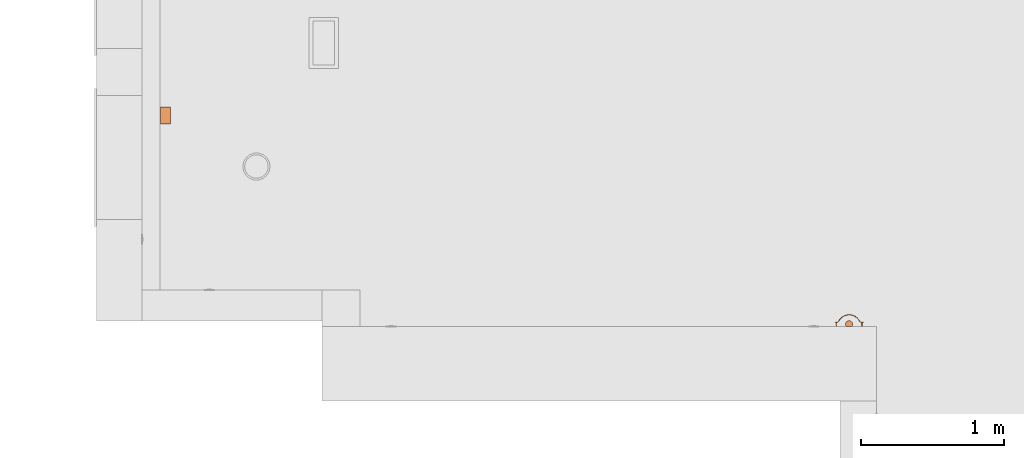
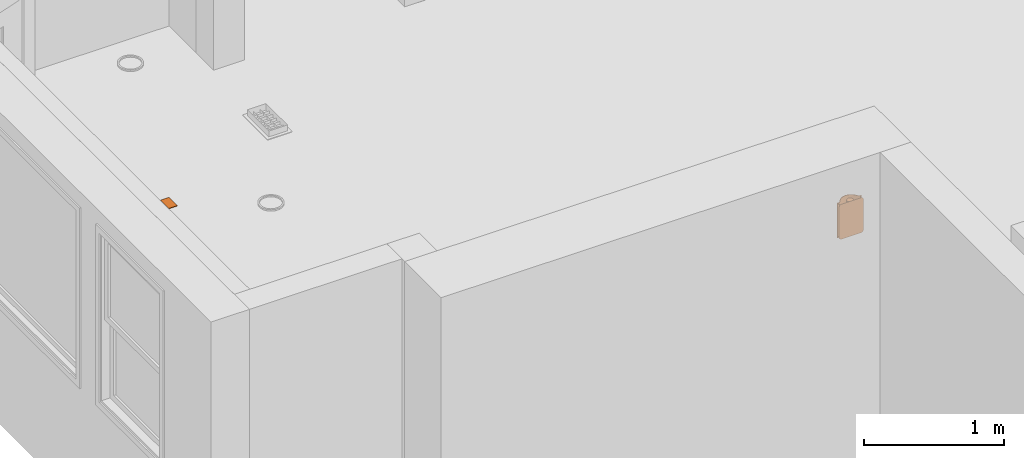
# One storey, part 25 of 48: 2 proxies.
"""IFC2X3 building model written with IfcOpenShell, lengths in inches."""

from ifc_helpers import new_model, entity, si_unit, converted_unit, derived_unit, money_unit, direction, frame, origin_with_axes, place, context, subcontext, project, spatial, faceted_brep, source, transform, mapped, material, type_object, element, save


model = new_model("IFC2X3")

# Units and contexts
model_context = context("Model", 3, precision=0.00039370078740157, world=origin_with_axes(), true_north=direction((0.0, 1.0)))
plan_context = context("Plan", 3, precision=0.00039370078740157, world=origin_with_axes(), true_north=direction((0.0, 1.0)))
body_context = subcontext(model_context, "Body", "Model", "MODEL_VIEW")
ifc_project = project(units=[converted_unit("LENGTHUNIT", "INCH", entity("IfcPositiveLengthMeasure", 0.0254), si_unit("LENGTHUNIT", "METRE"), dimensions=[1, 0, 0, 0, 0, 0, 0]), converted_unit("AREAUNIT", "SQUARE_FOOT", entity("IfcPositiveLengthMeasure", 0.09290304), si_unit("AREAUNIT", "SQUARE_METRE"), dimensions=[2, 0, 0, 0, 0, 0, 0]), si_unit("PLANEANGLEUNIT", "RADIAN"), si_unit("SOLIDANGLEUNIT", "STERADIAN"), money_unit("USD"), converted_unit("TIMEUNIT", "Year", entity("IfcTimeMeasure", 31557600.0), si_unit("TIMEUNIT", "SECOND"), dimensions=[0, 0, 1, 0, 0, 0, 0]), si_unit("MASSUNIT", "GRAM", prefix="KILO"), si_unit("THERMODYNAMICTEMPERATUREUNIT", "DEGREE_CELSIUS"), si_unit("LUMINOUSINTENSITYUNIT", "LUMEN"), si_unit("ENERGYUNIT", "JOULE", prefix="MEGA"), derived_unit("SPECIFICHEATCAPACITYUNIT", [(si_unit("ENERGYUNIT", "JOULE"), 1), (si_unit("MASSUNIT", "GRAM", prefix="KILO"), -1), (si_unit("THERMODYNAMICTEMPERATUREUNIT", "KELVIN"), -1)])], contexts=[model_context, plan_context])

# Site, building, storey
site_placement = place(None, origin_with_axes())
site = spatial("IfcSite", under=ifc_project, at=site_placement, Name="Site", CompositionType="ELEMENT")
building_placement = place(site_placement, origin_with_axes())
building = spatial("IfcBuilding", under=site, at=building_placement, Name="Building", CompositionType="ELEMENT")
storey_placement = place(building_placement, origin_with_axes())
storey = spatial("IfcBuildingStorey", under=building, at=storey_placement, Name="First Floor", CompositionType="ELEMENT", Elevation=0.0)

# Proxies
ifc_material = material(Name="Color - White")
building_element_proxy_type_1 = type_object("IfcBuildingElementProxyType", Name="Color - White", PredefinedType="NOTDEFINED")
shared_shape_1 = source(origin_with_axes(), body_context, "Body", "Brep", [
    faceted_brep([(39.622047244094, -412.3783872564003, 95.86220472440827), (39.622047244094, -412.3783872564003, 95.9999999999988), (39.622047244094, -407.6539778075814, 95.9999999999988), (39.622047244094, -407.6539778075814, 95.86220472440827), (42.37795275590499, -412.3783872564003, 95.86220472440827), (42.37795275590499, -412.3783872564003, 95.9999999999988), (40.72440944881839, -410.4886234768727, 95.9999999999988), (40.60629921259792, -410.4886234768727, 95.9999999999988), (40.60629921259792, -409.5437415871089, 95.9999999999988), (40.72440944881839, -409.5437415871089, 95.9999999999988), (42.37795275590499, -407.6539778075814, 95.9999999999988), (42.37795275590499, -407.6539778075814, 95.86220472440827), (40.60629921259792, -409.5437415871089, 95.86220472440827), (40.60629921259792, -410.4886234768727, 95.86220472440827), (41.39370078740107, -410.4886234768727, 95.86220472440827), (41.39370078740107, -409.5437415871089, 95.86220472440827), (41.2755905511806, -410.4886234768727, 95.9999999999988), (40.9999999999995, -410.0161825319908, 95.9999999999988), (41.39370078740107, -410.4886234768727, 95.9999999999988), (41.39370078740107, -409.5437415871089, 95.9999999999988), (41.2755905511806, -409.5437415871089, 95.9999999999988), (40.60629921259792, -409.5437415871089, 95.81791338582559), (40.60629921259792, -410.4886234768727, 95.81791338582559), (41.39370078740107, -410.4886234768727, 95.81791338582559), (41.39370078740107, -409.5437415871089, 95.81791338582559)], [[[0, 1, 2, 3]], [[1, 0, 4, 5]], [[1, 6, 7, 8, 9, 2]], [[3, 2, 10, 11]], [[0, 3, 11, 4], [12, 13, 14, 15]], [[5, 4, 11, 10]], [[6, 1, 5, 16]], [[17, 7, 6, 16, 18]], [[8, 7, 17]], [[8, 17, 19, 20, 9]], [[2, 9, 20, 10]], [[21, 22, 13, 12]], [[13, 22, 23, 14]], [[14, 23, 24, 15]], [[21, 12, 15, 24]], [[19, 18, 16, 5, 10, 20]], [[17, 18, 19]], [[22, 21, 24, 23]]]),
])
proxy_1_placement = place(storey_placement, frame((-226.4970472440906, 592.5190122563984, 4.999999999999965), z_axis=(0.0, 0.0, 1.0), x_axis=(1.0, 0.0, 0.0)))
element("IfcBuildingElementProxy", 1, at=proxy_1_placement, inside=storey, type_object=building_element_proxy_type_1, material=ifc_material, Name="OBJ-03", context=body_context, shape_type="MappedRepresentation", body=[
    mapped(shared_shape_1, transform((0.0, 0.0, 0.0))),
])
building_element_proxy_type_2 = type_object("IfcBuildingElementProxyType", Name="Wall Lamp", PredefinedType="NOTDEFINED")
shared_shape_2 = source(origin_with_axes(), body_context, "Body", "Brep", [
    faceted_brep([(3.9370078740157, -1.062992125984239, 0.0), (3.591991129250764, -1.063143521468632, 0.0), (3.591991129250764, -1.063143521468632, 11.99999999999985), (3.9370078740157, -1.062992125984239, 11.99999999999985), (3.9370078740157, -1.18110236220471, 0.0), (3.54330708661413, -1.18110236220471, 0.0), (3.389692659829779, -1.196232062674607, 0.0), (3.241981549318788, -1.241039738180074, 0.0), (3.105850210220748, -1.31380345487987, 0.0), (2.986530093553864, -1.411726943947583, 0.0), (2.669665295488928, -1.945564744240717, 0.0), (2.258517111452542, -2.410691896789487, 0.0), (1.767605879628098, -2.790681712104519, 0.0), (1.214268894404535, -3.072114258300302, 0.0), (0.6180481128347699, -3.245050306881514, 0.0), (0.0, -3.30338235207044, 0.0), (0.0, -3.14960629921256, 0.0), (0.5658852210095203, -3.098353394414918, 0.0), (1.113353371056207, -2.946262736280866, 0.0), (1.624586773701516, -2.698284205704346, 0.0), (2.082947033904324, -2.362488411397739, 0.0), (2.47351654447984, -1.949804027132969, 0.0), (2.783583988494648, -1.473662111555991, 0.0), (2.903069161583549, -1.326520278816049, 0.0), (3.050535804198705, -1.207436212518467, 0.0), (3.219538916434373, -1.121614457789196, 0.0), (3.402692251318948, -1.072805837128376, 0.0), (3.402692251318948, -1.072805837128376, 11.99999999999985), (3.219538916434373, -1.121614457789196, 11.99999999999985), (3.050535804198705, -1.207436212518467, 11.99999999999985), (2.903069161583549, -1.326520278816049, 11.99999999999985), (2.783583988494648, -1.473662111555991, 11.99999999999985), (2.47351654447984, -1.949804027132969, 11.99999999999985), (2.082947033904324, -2.362488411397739, 11.99999999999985), (1.624586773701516, -2.698284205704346, 11.99999999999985), (1.113353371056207, -2.946262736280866, 11.99999999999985), (0.5658852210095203, -3.098353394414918, 11.99999999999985), (0.0, -3.14960629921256, 11.99999999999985), (0.0, -3.30338235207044, 11.99999999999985), (0.6180481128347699, -3.245050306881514, 11.99999999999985), (1.214268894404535, -3.072114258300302, 11.99999999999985), (1.767605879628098, -2.790681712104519, 11.99999999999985), (2.258517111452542, -2.410691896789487, 11.99999999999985), (2.669665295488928, -1.945564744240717, 11.99999999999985), (2.986530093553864, -1.411726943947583, 11.99999999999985), (3.105850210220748, -1.31380345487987, 11.99999999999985), (3.241981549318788, -1.241039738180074, 11.99999999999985), (3.389692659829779, -1.196232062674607, 11.99999999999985), (3.54330708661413, -1.18110236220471, 11.99999999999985), (3.9370078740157, -1.18110236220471, 11.99999999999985)], [[[0, 1, 2, 3]], [[0, 4, 5, 6, 7, 8, 9, 10, 11, 12, 13, 14, 15, 16, 17, 18, 19, 20, 21, 22, 23, 24, 25, 26, 1]], [[1, 26, 27, 2]], [[3, 2, 27, 28, 29, 30, 31, 32, 33, 34, 35, 36, 37, 38, 39, 40, 41, 42, 43, 44, 45, 46, 47, 48, 49]], [[4, 0, 3, 49]], [[5, 4, 49, 48]], [[6, 5, 48, 47]], [[7, 6, 47, 46]], [[8, 7, 46, 45]], [[9, 8, 45, 44]], [[10, 9, 44, 43]], [[11, 10, 43, 42]], [[12, 11, 42, 41]], [[13, 12, 41, 40]], [[14, 13, 40, 39]], [[15, 14, 39, 38]], [[16, 15, 38, 37]], [[17, 16, 37, 36]], [[18, 17, 36, 35]], [[19, 18, 35, 34]], [[20, 19, 34, 33]], [[21, 20, 33, 32]], [[22, 21, 32, 31]], [[23, 22, 31, 30]], [[24, 23, 30, 29]], [[25, 24, 29, 28]], [[26, 25, 28, 27]]]),
    faceted_brep([(-3.9370078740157, -1.062992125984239, 0.0), (-3.9370078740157, -1.062992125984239, 11.99999999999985), (-3.591991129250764, -1.063143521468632, 11.99999999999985), (-3.591991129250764, -1.063143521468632, 0.0), (-3.9370078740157, -1.18110236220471, 0.0), (-3.9370078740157, -1.18110236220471, 11.99999999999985), (-3.54330708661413, -1.18110236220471, 11.99999999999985), (-3.389692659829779, -1.196232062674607, 11.99999999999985), (-3.241981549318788, -1.241039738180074, 11.99999999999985), (-3.105850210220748, -1.31380345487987, 11.99999999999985), (-2.986530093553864, -1.411726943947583, 11.99999999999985), (-2.669665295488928, -1.945564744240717, 11.99999999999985), (-2.258517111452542, -2.410691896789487, 11.99999999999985), (-1.767605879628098, -2.790681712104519, 11.99999999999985), (-1.214268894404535, -3.072114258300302, 11.99999999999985), (-0.6180481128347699, -3.245050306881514, 11.99999999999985), (0.0, -3.30338235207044, 11.99999999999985), (0.0, -3.14960629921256, 11.99999999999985), (-0.5658852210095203, -3.098353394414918, 11.99999999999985), (-1.113353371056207, -2.946262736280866, 11.99999999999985), (-1.624586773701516, -2.698284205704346, 11.99999999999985), (-2.082947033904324, -2.362488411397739, 11.99999999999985), (-2.47351654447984, -1.949804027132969, 11.99999999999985), (-2.783583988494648, -1.473662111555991, 11.99999999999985), (-2.903069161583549, -1.326520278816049, 11.99999999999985), (-3.050535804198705, -1.207436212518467, 11.99999999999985), (-3.219538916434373, -1.121614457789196, 11.99999999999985), (-3.402692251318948, -1.072805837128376, 11.99999999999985), (-3.402692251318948, -1.072805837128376, 0.0), (-3.219538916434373, -1.121614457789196, 0.0), (-3.050535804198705, -1.207436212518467, 0.0), (-2.903069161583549, -1.326520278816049, 0.0), (-2.783583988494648, -1.473662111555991, 0.0), (-2.47351654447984, -1.949804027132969, 0.0), (-2.082947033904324, -2.362488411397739, 0.0), (-1.624586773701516, -2.698284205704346, 0.0), (-1.113353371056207, -2.946262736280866, 0.0), (-0.5658852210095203, -3.098353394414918, 0.0), (0.0, -3.14960629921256, 0.0), (0.0, -3.30338235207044, 0.0), (-0.6180481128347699, -3.245050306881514, 0.0), (-1.214268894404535, -3.072114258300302, 0.0), (-1.767605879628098, -2.790681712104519, 0.0), (-2.258517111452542, -2.410691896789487, 0.0), (-2.669665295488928, -1.945564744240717, 0.0), (-2.986530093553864, -1.411726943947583, 0.0), (-3.105850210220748, -1.31380345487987, 0.0), (-3.241981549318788, -1.241039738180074, 0.0), (-3.389692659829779, -1.196232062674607, 0.0), (-3.54330708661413, -1.18110236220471, 0.0)], [[[0, 1, 2, 3]], [[4, 5, 1, 0]], [[1, 5, 6, 7, 8, 9, 10, 11, 12, 13, 14, 15, 16, 17, 18, 19, 20, 21, 22, 23, 24, 25, 26, 27, 2]], [[3, 2, 27, 28]], [[0, 3, 28, 29, 30, 31, 32, 33, 34, 35, 36, 37, 38, 39, 40, 41, 42, 43, 44, 45, 46, 47, 48, 49, 4]], [[49, 6, 5, 4]], [[48, 7, 6, 49]], [[47, 8, 7, 48]], [[46, 9, 8, 47]], [[45, 10, 9, 46]], [[44, 11, 10, 45]], [[43, 12, 11, 44]], [[42, 13, 12, 43]], [[41, 14, 13, 42]], [[40, 15, 14, 41]], [[39, 16, 15, 40]], [[38, 17, 16, 39]], [[37, 18, 17, 38]], [[36, 19, 18, 37]], [[35, 20, 19, 36]], [[34, 21, 20, 35]], [[33, 22, 21, 34]], [[32, 23, 22, 33]], [[31, 24, 23, 32]], [[30, 25, 24, 31]], [[29, 26, 25, 30]], [[28, 27, 26, 29]]]),
    faceted_brep([(3.14960629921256, 0.0, 0.0), (3.14960629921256, -0.039370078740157, 0.0), (-3.14960629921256, -0.039370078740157, 0.0), (-3.14960629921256, 0.0, 0.0), (3.303220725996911, 0.0, 0.01512970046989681), (3.303220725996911, -0.039370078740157, 0.01512970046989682), (3.450931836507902, -0.039370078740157, 0.05993737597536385), (3.587063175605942, -0.03937007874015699, 0.1327010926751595), (3.706383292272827, -0.03937007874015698, 0.230624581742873), (3.80430678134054, -0.03937007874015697, 0.3499446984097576), (3.877070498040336, -0.03937007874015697, 0.4860760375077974), (3.921878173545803, -0.03937007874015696, 0.633787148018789), (3.9370078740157, -0.03937007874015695, 0.78740157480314), (3.9370078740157, -0.03937007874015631, 11.21259842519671), (3.921878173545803, -0.0393700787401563, 11.36621285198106), (3.877070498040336, -0.03937007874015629, 11.51392396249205), (3.80430678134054, -0.03937007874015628, 11.65005530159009), (3.706383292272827, -0.03937007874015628, 11.76937541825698), (3.587063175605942, -0.03937007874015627, 11.86729890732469), (3.450931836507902, -0.03937007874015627, 11.94006262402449), (3.30322072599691, -0.03937007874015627, 11.98487029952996), (3.14960629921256, -0.03937007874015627, 11.99999999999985), (-3.14960629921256, -0.03937007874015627, 11.99999999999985), (-3.30322072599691, -0.03937007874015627, 11.98487029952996), (-3.450931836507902, -0.03937007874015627, 11.94006262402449), (-3.587063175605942, -0.03937007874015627, 11.86729890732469), (-3.706383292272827, -0.03937007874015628, 11.76937541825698), (-3.80430678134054, -0.03937007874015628, 11.65005530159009), (-3.877070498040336, -0.03937007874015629, 11.51392396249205), (-3.921878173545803, -0.0393700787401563, 11.36621285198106), (-3.9370078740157, -0.03937007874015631, 11.21259842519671), (-3.9370078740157, -0.03937007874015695, 0.7874015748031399), (-3.921878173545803, -0.03937007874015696, 0.6337871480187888), (-3.877070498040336, -0.03937007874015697, 0.4860760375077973), (-3.80430678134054, -0.03937007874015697, 0.3499446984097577), (-3.706383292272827, -0.03937007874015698, 0.2306245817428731), (-3.587063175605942, -0.03937007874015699, 0.1327010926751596), (-3.450931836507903, -0.039370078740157, 0.05993737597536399), (-3.303220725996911, -0.039370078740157, 0.01512970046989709), (-3.303220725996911, 0.0, 0.01512970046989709), (-3.450931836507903, 0.0, 0.05993737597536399), (-3.587063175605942, 0.0, 0.1327010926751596), (-3.706383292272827, 0.0, 0.2306245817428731), (-3.80430678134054, 0.0, 0.3499446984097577), (-3.877070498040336, 0.0, 0.4860760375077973), (-3.921878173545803, 0.0, 0.6337871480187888), (-3.9370078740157, 0.0, 0.7874015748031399), (-3.9370078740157, 0.0, 11.21259842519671), (-3.921878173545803, 0.0, 11.36621285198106), (-3.877070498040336, 0.0, 11.51392396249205), (-3.80430678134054, 0.0, 11.65005530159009), (-3.706383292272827, 0.0, 11.76937541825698), (-3.587063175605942, 0.0, 11.86729890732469), (-3.450931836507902, 0.0, 11.94006262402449), (-3.30322072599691, 0.0, 11.98487029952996), (-3.14960629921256, 0.0, 11.99999999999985), (3.14960629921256, 0.0, 11.99999999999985), (3.30322072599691, 0.0, 11.98487029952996), (3.450931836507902, 0.0, 11.94006262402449), (3.587063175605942, 0.0, 11.86729890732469), (3.706383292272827, 0.0, 11.76937541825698), (3.80430678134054, 0.0, 11.65005530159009), (3.877070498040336, 0.0, 11.51392396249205), (3.921878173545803, 0.0, 11.36621285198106), (3.9370078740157, 0.0, 11.21259842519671), (3.9370078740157, 0.0, 0.78740157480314), (3.921878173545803, 0.0, 0.633787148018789), (3.877070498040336, 0.0, 0.4860760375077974), (3.80430678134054, 0.0, 0.3499446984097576), (3.706383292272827, 0.0, 0.230624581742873), (3.587063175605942, 0.0, 0.1327010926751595), (3.450931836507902, 0.0, 0.05993737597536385)], [[[0, 1, 2, 3]], [[4, 5, 1, 0]], [[1, 5, 6, 7, 8, 9, 10, 11, 12, 13, 14, 15, 16, 17, 18, 19, 20, 21, 22, 23, 24, 25, 26, 27, 28, 29, 30, 31, 32, 33, 34, 35, 36, 37, 38, 2]], [[3, 2, 38, 39]], [[0, 3, 39, 40, 41, 42, 43, 44, 45, 46, 47, 48, 49, 50, 51, 52, 53, 54, 55, 56, 57, 58, 59, 60, 61, 62, 63, 64, 65, 66, 67, 68, 69, 70, 71, 4]], [[71, 6, 5, 4]], [[70, 7, 6, 71]], [[69, 8, 7, 70]], [[68, 9, 8, 69]], [[67, 10, 9, 68]], [[66, 11, 10, 67]], [[65, 12, 11, 66]], [[64, 13, 12, 65]], [[63, 14, 13, 64]], [[62, 15, 14, 63]], [[61, 16, 15, 62]], [[60, 17, 16, 61]], [[59, 18, 17, 60]], [[58, 19, 18, 59]], [[57, 20, 19, 58]], [[56, 21, 20, 57]], [[55, 22, 21, 56]], [[54, 23, 22, 55]], [[53, 24, 23, 54]], [[52, 25, 24, 53]], [[51, 26, 25, 52]], [[50, 27, 26, 51]], [[49, 28, 27, 50]], [[48, 29, 28, 49]], [[47, 30, 29, 48]], [[46, 31, 30, 47]], [[45, 32, 31, 46]], [[44, 33, 32, 45]], [[43, 34, 33, 44]], [[42, 35, 34, 43]], [[41, 36, 35, 42]], [[40, 37, 36, 41]], [[39, 38, 37, 40]]]),
    faceted_brep([(3.661417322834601, -0.03937007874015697, 0.39370078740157), (3.602362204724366, -0.03937007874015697, 0.4959872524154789), (3.602362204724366, -1.220472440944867, 0.495987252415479), (3.661417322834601, -1.220472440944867, 0.3937007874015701), (3.602362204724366, -0.03937007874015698, 0.291414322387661), (3.484251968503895, -0.03937007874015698, 0.2914143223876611), (3.425196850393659, -0.03937007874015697, 0.3937007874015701), (3.484251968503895, -0.03937007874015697, 0.495987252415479), (3.484251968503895, -1.220472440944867, 0.495987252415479), (3.425196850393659, -1.220472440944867, 0.3937007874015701), (3.484251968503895, -1.220472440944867, 0.2914143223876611), (3.602362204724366, -1.220472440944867, 0.2914143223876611)], [[[0, 1, 2, 3]], [[0, 4, 5, 6, 7, 1]], [[1, 7, 8, 2]], [[3, 2, 8, 9, 10, 11]], [[4, 0, 3, 11]], [[5, 4, 11, 10]], [[6, 5, 10, 9]], [[7, 6, 9, 8]]]),
    faceted_brep([(-3.425196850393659, -0.03937007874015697, 0.39370078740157), (-3.484251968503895, -0.03937007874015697, 0.4959872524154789), (-3.484251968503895, -1.220472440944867, 0.495987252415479), (-3.425196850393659, -1.220472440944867, 0.3937007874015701), (-3.484251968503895, -0.03937007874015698, 0.291414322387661), (-3.602362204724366, -0.03937007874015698, 0.2914143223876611), (-3.661417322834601, -0.03937007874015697, 0.3937007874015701), (-3.602362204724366, -0.03937007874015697, 0.495987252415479), (-3.602362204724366, -1.220472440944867, 0.495987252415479), (-3.661417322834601, -1.220472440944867, 0.3937007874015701), (-3.602362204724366, -1.220472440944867, 0.2914143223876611), (-3.484251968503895, -1.220472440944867, 0.2914143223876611)], [[[0, 1, 2, 3]], [[0, 4, 5, 6, 7, 1]], [[1, 7, 8, 2]], [[3, 2, 8, 9, 10, 11]], [[4, 0, 3, 11]], [[5, 4, 11, 10]], [[6, 5, 10, 9]], [[7, 6, 9, 8]]]),
    faceted_brep([(3.661417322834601, -0.03937007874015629, 11.60629921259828), (3.602362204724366, -0.03937007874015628, 11.70858567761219), (3.602362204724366, -1.220472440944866, 11.70858567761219), (3.661417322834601, -1.220472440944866, 11.60629921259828), (3.602362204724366, -0.03937007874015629, 11.50401274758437), (3.484251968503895, -0.03937007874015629, 11.50401274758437), (3.425196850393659, -0.03937007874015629, 11.60629921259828), (3.484251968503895, -0.03937007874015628, 11.70858567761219), (3.484251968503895, -1.220472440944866, 11.70858567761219), (3.425196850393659, -1.220472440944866, 11.60629921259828), (3.484251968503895, -1.220472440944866, 11.50401274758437), (3.602362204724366, -1.220472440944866, 11.50401274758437)], [[[0, 1, 2, 3]], [[0, 4, 5, 6, 7, 1]], [[1, 7, 8, 2]], [[3, 2, 8, 9, 10, 11]], [[4, 0, 3, 11]], [[5, 4, 11, 10]], [[6, 5, 10, 9]], [[7, 6, 9, 8]]]),
    faceted_brep([(-3.425196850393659, -0.03937007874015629, 11.60629921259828), (-3.484251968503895, -0.03937007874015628, 11.70858567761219), (-3.484251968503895, -1.220472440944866, 11.70858567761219), (-3.425196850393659, -1.220472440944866, 11.60629921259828), (-3.484251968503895, -0.03937007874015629, 11.50401274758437), (-3.602362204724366, -0.03937007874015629, 11.50401274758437), (-3.661417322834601, -0.03937007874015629, 11.60629921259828), (-3.602362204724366, -0.03937007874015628, 11.70858567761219), (-3.602362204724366, -1.220472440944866, 11.70858567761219), (-3.661417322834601, -1.220472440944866, 11.60629921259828), (-3.602362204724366, -1.220472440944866, 11.50401274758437), (-3.484251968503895, -1.220472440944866, 11.50401274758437)], [[[0, 1, 2, 3]], [[0, 4, 5, 6, 7, 1]], [[1, 7, 8, 2]], [[3, 2, 8, 9, 10, 11]], [[4, 0, 3, 11]], [[5, 4, 11, 10]], [[6, 5, 10, 9]], [[7, 6, 9, 8]]]),
    faceted_brep([(-0.7874015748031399, -0.039370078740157, 0.0), (-0.8895785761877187, -0.2087302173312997, 0.0), (-0.8895785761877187, -0.2087302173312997, 0.984251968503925), (-0.7874015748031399, -0.039370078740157, 0.984251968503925), (0.78740157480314, -0.039370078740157, 0.0), (0.889578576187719, -0.2087302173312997, 0.0), (0.9558299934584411, -0.3951001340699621, 0.0), (0.9834802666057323, -0.5909532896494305, 0.0), (0.971412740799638, -0.7883801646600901, 0.0), (0.9201147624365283, -0.9794076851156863, 0.0), (0.8316579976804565, -1.15632121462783, 0.0), (0.7096147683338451, -1.311976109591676, 0.0), (0.5589137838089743, -1.440086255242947, 0.0), (0.3856410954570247, -1.535477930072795, 0.0), (0.1967943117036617, -1.594298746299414, 0.0), (0.0, -1.614173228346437, 0.0), (-0.1967943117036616, -1.594298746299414, 0.0), (-0.3856410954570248, -1.535477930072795, 0.0), (-0.5589137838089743, -1.440086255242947, 0.0), (-0.7096147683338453, -1.311976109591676, 0.0), (-0.8316579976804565, -1.15632121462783, 0.0), (-0.9201147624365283, -0.979407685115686, 0.0), (-0.971412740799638, -0.7883801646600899, 0.0), (-0.9834802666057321, -0.5909532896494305, 0.0), (-0.9558299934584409, -0.3951001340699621, 0.0), (-0.9558299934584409, -0.3951001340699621, 0.984251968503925), (-0.9834802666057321, -0.5909532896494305, 0.984251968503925), (-0.971412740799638, -0.7883801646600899, 0.984251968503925), (-0.9201147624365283, -0.979407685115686, 0.984251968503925), (-0.8316579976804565, -1.15632121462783, 0.984251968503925), (-0.7096147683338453, -1.311976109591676, 0.984251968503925), (-0.5589137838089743, -1.440086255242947, 0.984251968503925), (-0.3856410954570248, -1.535477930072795, 0.984251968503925), (-0.1967943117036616, -1.594298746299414, 0.984251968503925), (0.0, -1.614173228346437, 0.984251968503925), (0.1967943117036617, -1.594298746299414, 0.984251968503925), (0.3856410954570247, -1.535477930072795, 0.984251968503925), (0.5589137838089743, -1.440086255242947, 0.984251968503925), (0.7096147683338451, -1.311976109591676, 0.984251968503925), (0.8316579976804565, -1.15632121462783, 0.984251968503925), (0.9201147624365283, -0.9794076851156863, 0.984251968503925), (0.971412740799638, -0.7883801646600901, 0.984251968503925), (0.9834802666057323, -0.5909532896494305, 0.984251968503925), (0.9558299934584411, -0.3951001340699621, 0.984251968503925), (0.889578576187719, -0.2087302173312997, 0.984251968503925), (0.78740157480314, -0.039370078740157, 0.984251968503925)], [[[0, 1, 2, 3]], [[0, 4, 5, 6, 7, 8, 9, 10, 11, 12, 13, 14, 15, 16, 17, 18, 19, 20, 21, 22, 23, 24, 1]], [[1, 24, 25, 2]], [[3, 2, 25, 26, 27, 28, 29, 30, 31, 32, 33, 34, 35, 36, 37, 38, 39, 40, 41, 42, 43, 44, 45]], [[4, 0, 3, 45]], [[5, 4, 45, 44]], [[6, 5, 44, 43]], [[7, 6, 43, 42]], [[8, 7, 42, 41]], [[9, 8, 41, 40]], [[10, 9, 40, 39]], [[11, 10, 39, 38]], [[12, 11, 38, 37]], [[13, 12, 37, 36]], [[14, 13, 36, 35]], [[15, 14, 35, 34]], [[16, 15, 34, 33]], [[17, 16, 33, 32]], [[18, 17, 32, 31]], [[19, 18, 31, 30]], [[20, 19, 30, 29]], [[21, 20, 29, 28]], [[22, 21, 28, 27]], [[23, 22, 27, 26]], [[24, 23, 26, 25]]]),
    faceted_brep([(-0.7874015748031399, -0.039370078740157, 11.01574803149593), (-0.8895785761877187, -0.2087302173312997, 11.01574803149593), (-0.8895785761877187, -0.2087302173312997, 11.99999999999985), (-0.7874015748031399, -0.039370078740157, 11.99999999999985), (0.78740157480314, -0.039370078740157, 11.01574803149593), (0.889578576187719, -0.2087302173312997, 11.01574803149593), (0.9558299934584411, -0.3951001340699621, 11.01574803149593), (0.9834802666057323, -0.5909532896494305, 11.01574803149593), (0.971412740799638, -0.7883801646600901, 11.01574803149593), (0.9201147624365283, -0.9794076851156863, 11.01574803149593), (0.8316579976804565, -1.15632121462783, 11.01574803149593), (0.7096147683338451, -1.311976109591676, 11.01574803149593), (0.5589137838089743, -1.440086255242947, 11.01574803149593), (0.3856410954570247, -1.535477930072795, 11.01574803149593), (0.1967943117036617, -1.594298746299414, 11.01574803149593), (0.0, -1.614173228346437, 11.01574803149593), (-0.1967943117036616, -1.594298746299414, 11.01574803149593), (-0.3856410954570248, -1.535477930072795, 11.01574803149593), (-0.5589137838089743, -1.440086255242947, 11.01574803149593), (-0.7096147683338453, -1.311976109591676, 11.01574803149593), (-0.8316579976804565, -1.15632121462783, 11.01574803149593), (-0.9201147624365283, -0.979407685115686, 11.01574803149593), (-0.971412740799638, -0.7883801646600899, 11.01574803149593), (-0.9834802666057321, -0.5909532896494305, 11.01574803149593), (-0.9558299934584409, -0.3951001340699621, 11.01574803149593), (-0.9558299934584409, -0.3951001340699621, 11.99999999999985), (-0.9834802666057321, -0.5909532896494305, 11.99999999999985), (-0.971412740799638, -0.7883801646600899, 11.99999999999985), (-0.9201147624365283, -0.979407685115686, 11.99999999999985), (-0.8316579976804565, -1.15632121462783, 11.99999999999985), (-0.7096147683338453, -1.311976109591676, 11.99999999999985), (-0.5589137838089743, -1.440086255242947, 11.99999999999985), (-0.3856410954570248, -1.535477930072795, 11.99999999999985), (-0.1967943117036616, -1.594298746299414, 11.99999999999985), (0.0, -1.614173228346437, 11.99999999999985), (0.1967943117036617, -1.594298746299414, 11.99999999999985), (0.3856410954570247, -1.535477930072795, 11.99999999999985), (0.5589137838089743, -1.440086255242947, 11.99999999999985), (0.7096147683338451, -1.311976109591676, 11.99999999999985), (0.8316579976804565, -1.15632121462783, 11.99999999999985), (0.9201147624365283, -0.9794076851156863, 11.99999999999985), (0.971412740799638, -0.7883801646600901, 11.99999999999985), (0.9834802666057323, -0.5909532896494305, 11.99999999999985), (0.9558299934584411, -0.3951001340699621, 11.99999999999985), (0.889578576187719, -0.2087302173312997, 11.99999999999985), (0.78740157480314, -0.039370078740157, 11.99999999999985)], [[[0, 1, 2, 3]], [[0, 4, 5, 6, 7, 8, 9, 10, 11, 12, 13, 14, 15, 16, 17, 18, 19, 20, 21, 22, 23, 24, 1]], [[1, 24, 25, 2]], [[3, 2, 25, 26, 27, 28, 29, 30, 31, 32, 33, 34, 35, 36, 37, 38, 39, 40, 41, 42, 43, 44, 45]], [[4, 0, 3, 45]], [[5, 4, 45, 44]], [[6, 5, 44, 43]], [[7, 6, 43, 42]], [[8, 7, 42, 41]], [[9, 8, 41, 40]], [[10, 9, 40, 39]], [[11, 10, 39, 38]], [[12, 11, 38, 37]], [[13, 12, 37, 36]], [[14, 13, 36, 35]], [[15, 14, 35, 34]], [[16, 15, 34, 33]], [[17, 16, 33, 32]], [[18, 17, 32, 31]], [[19, 18, 31, 30]], [[20, 19, 30, 29]], [[21, 20, 29, 28]], [[22, 21, 28, 27]], [[23, 22, 27, 26]], [[24, 23, 26, 25]]]),
    faceted_brep([(-0.7874015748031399, -0.039370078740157, 0.984251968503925), (-0.8895785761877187, -0.2087302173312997, 0.984251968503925), (-0.8895785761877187, -0.2087302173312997, 11.01574803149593), (-0.7874015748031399, -0.039370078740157, 11.01574803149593), (0.78740157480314, -0.039370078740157, 0.984251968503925), (0.889578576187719, -0.2087302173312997, 0.984251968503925), (0.9558299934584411, -0.3951001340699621, 0.984251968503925), (0.9834802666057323, -0.5909532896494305, 0.984251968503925), (0.971412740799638, -0.7883801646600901, 0.984251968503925), (0.9201147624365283, -0.9794076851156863, 0.984251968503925), (0.8316579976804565, -1.15632121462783, 0.984251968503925), (0.7096147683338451, -1.311976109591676, 0.984251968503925), (0.5589137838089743, -1.440086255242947, 0.984251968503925), (0.3856410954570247, -1.535477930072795, 0.984251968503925), (0.1967943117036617, -1.594298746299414, 0.984251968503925), (0.0, -1.614173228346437, 0.984251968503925), (-0.1967943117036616, -1.594298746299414, 0.984251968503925), (-0.3856410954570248, -1.535477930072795, 0.984251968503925), (-0.5589137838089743, -1.440086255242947, 0.984251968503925), (-0.7096147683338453, -1.311976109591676, 0.984251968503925), (-0.8316579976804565, -1.15632121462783, 0.984251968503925), (-0.9201147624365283, -0.979407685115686, 0.984251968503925), (-0.971412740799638, -0.7883801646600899, 0.984251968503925), (-0.9834802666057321, -0.5909532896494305, 0.984251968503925), (-0.9558299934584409, -0.3951001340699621, 0.984251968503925), (-0.9558299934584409, -0.3951001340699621, 11.01574803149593), (-0.9834802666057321, -0.5909532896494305, 11.01574803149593), (-0.971412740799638, -0.7883801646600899, 11.01574803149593), (-0.9201147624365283, -0.979407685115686, 11.01574803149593), (-0.8316579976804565, -1.15632121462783, 11.01574803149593), (-0.7096147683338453, -1.311976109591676, 11.01574803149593), (-0.5589137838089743, -1.440086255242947, 11.01574803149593), (-0.3856410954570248, -1.535477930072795, 11.01574803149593), (-0.1967943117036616, -1.594298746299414, 11.01574803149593), (0.0, -1.614173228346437, 11.01574803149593), (0.1967943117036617, -1.594298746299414, 11.01574803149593), (0.3856410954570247, -1.535477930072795, 11.01574803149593), (0.5589137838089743, -1.440086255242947, 11.01574803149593), (0.7096147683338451, -1.311976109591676, 11.01574803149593), (0.8316579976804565, -1.15632121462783, 11.01574803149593), (0.9201147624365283, -0.9794076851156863, 11.01574803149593), (0.971412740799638, -0.7883801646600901, 11.01574803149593), (0.9834802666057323, -0.5909532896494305, 11.01574803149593), (0.9558299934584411, -0.3951001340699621, 11.01574803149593), (0.889578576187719, -0.2087302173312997, 11.01574803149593), (0.78740157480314, -0.039370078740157, 11.01574803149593)], [[[0, 1, 2, 3]], [[0, 4, 5, 6, 7, 8, 9, 10, 11, 12, 13, 14, 15, 16, 17, 18, 19, 20, 21, 22, 23, 24, 1]], [[1, 24, 25, 2]], [[3, 2, 25, 26, 27, 28, 29, 30, 31, 32, 33, 34, 35, 36, 37, 38, 39, 40, 41, 42, 43, 44, 45]], [[4, 0, 3, 45]], [[5, 4, 45, 44]], [[6, 5, 44, 43]], [[7, 6, 43, 42]], [[8, 7, 42, 41]], [[9, 8, 41, 40]], [[10, 9, 40, 39]], [[11, 10, 39, 38]], [[12, 11, 38, 37]], [[13, 12, 37, 36]], [[14, 13, 36, 35]], [[15, 14, 35, 34]], [[16, 15, 34, 33]], [[17, 16, 33, 32]], [[18, 17, 32, 31]], [[19, 18, 31, 30]], [[20, 19, 30, 29]], [[21, 20, 29, 28]], [[22, 21, 28, 27]], [[23, 22, 27, 26]], [[24, 23, 26, 25]]]),
])
proxy_2_placement = place(storey_placement, frame((2.499999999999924, 124.4999999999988, 58.99999999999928), z_axis=(0.0, 0.0, 1.0), x_axis=(-1.0, 0.0, 0.0)))
element("IfcBuildingElementProxy", 2, at=proxy_2_placement, inside=storey, type_object=building_element_proxy_type_2, Name="L-17", context=body_context, shape_type="MappedRepresentation", body=[
    mapped(shared_shape_2, transform((0.0, 0.0, 0.0))),
])

save(model, "model.ifc")
